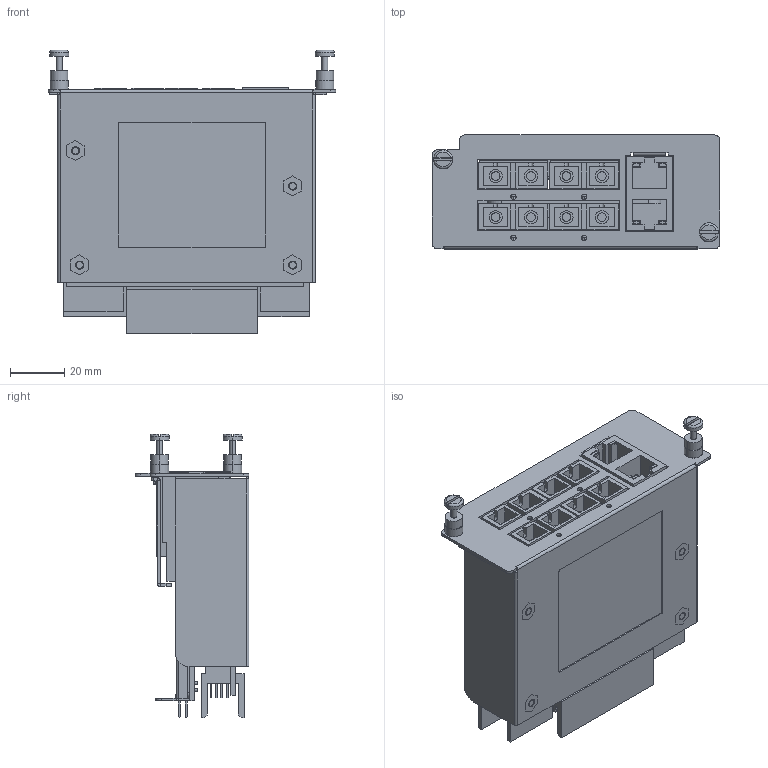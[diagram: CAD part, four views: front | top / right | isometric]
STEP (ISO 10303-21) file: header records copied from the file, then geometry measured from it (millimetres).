
FILE_DESCRIPTION((''),'2;1');
FILE_NAME('IM-6700_4MSC-2TX','2013-06-22T',('Vincent_Huang'),(''),'PRO/ENGINEER BY PARAMETRIC TECHNOLOGY CORPORATION, 2004320','PRO/ENGINEER BY PARAMETRIC TECHNOLOGY CORPORATION, 2004320','');
FILE_SCHEMA(('CONFIG_CONTROL_DESIGN'));
Length unit declared in the file: millimetre
Products named in the file (1): IM-6700_4MSC-2TX
Bounding box: 105.6 x 41.8 x 104.1 mm (x, y, z)
Surface area: 168948.7 mm2 (no closed solid volume)
Topology: 0 solids, 67 shells, 2636 faces, 6421 edges, 4232 vertices
Faces by surface type: plane 2143, cylinder 445, cone 44, torus 4
Entity records: 76719 total; most frequent: CARTESIAN_POINT 13359, ORIENTED_EDGE 12818, DIRECTION 12755, EDGE_CURVE 6417, VECTOR 5327, LINE 5327, VERTEX_POINT 4230, AXIS2_PLACEMENT_3D 3714
